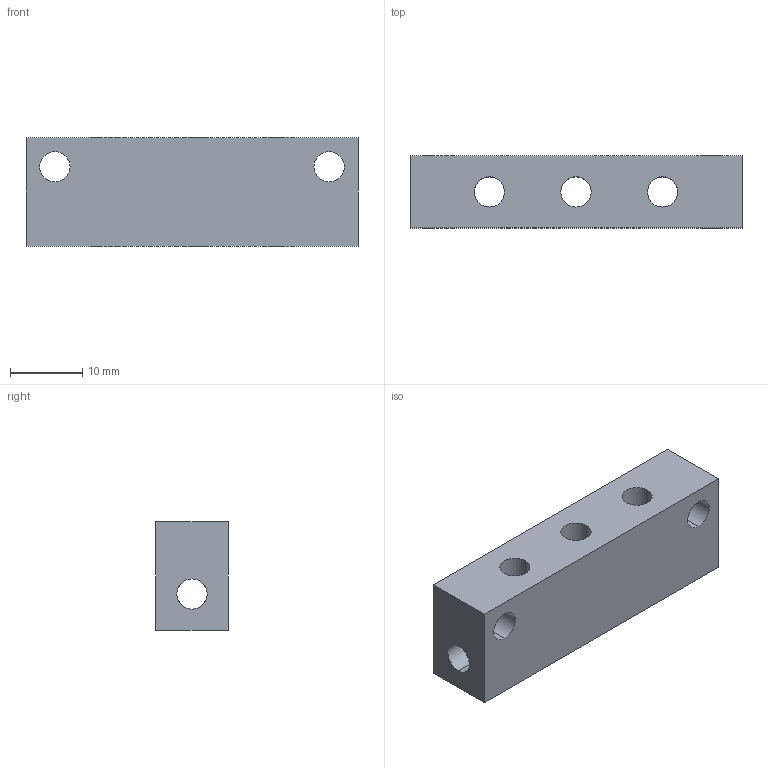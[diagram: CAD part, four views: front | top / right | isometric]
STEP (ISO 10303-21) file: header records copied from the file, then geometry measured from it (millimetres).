
FILE_DESCRIPTION (( 'STEP AP214' ), '1' );
FILE_NAME ('SMB-08M5.STEP', '2019-11-06T02:44:58', ( '微软用户' ), ( '微软中国' ), 'SwSTEP 2.0', 'SolidWorks 2016', '' );
FILE_SCHEMA (( 'AUTOMOTIVE_DESIGN' ));
Length unit declared in the file: millimetre
Products named in the file (1): SMB-08M5
Bounding box: 46 x 10 x 15 mm (x, y, z)
Volume: 5510.3 mm3; surface area: 3686.7 mm2
Topology: 1 solids, 1 shells, 30 faces, 84 edges, 50 vertices
Faces by surface type: cylinder 24, plane 6
Entity records: 1282 total; most frequent: CARTESIAN_POINT 237, ORIENTED_EDGE 168, DIRECTION 146, EDGE_CURVE 84, AXIS2_PLACEMENT_3D 55, VERTEX_POINT 50, EDGE_LOOP 42, LINE 36
